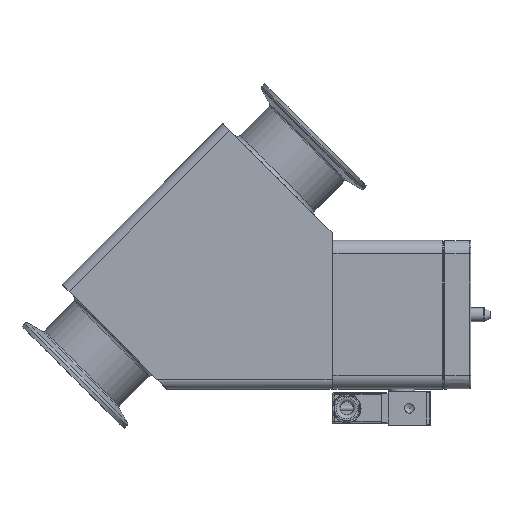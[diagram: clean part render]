
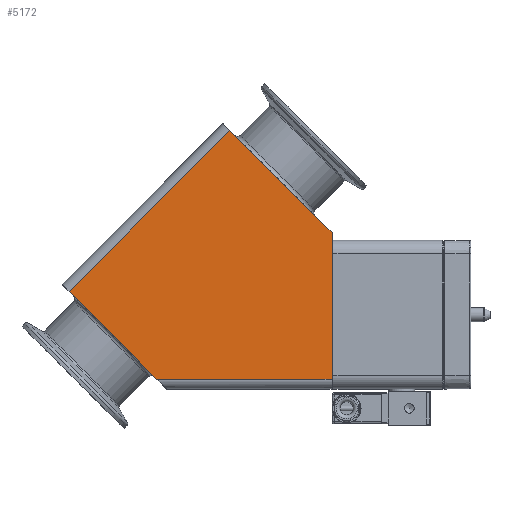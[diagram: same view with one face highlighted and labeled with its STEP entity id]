
A CAD part, top view. The second image highlights one B-rep face of the part: STEP entity #5172.
In plain terms, the highlighted planar face has unit normal (0, 0, 1).
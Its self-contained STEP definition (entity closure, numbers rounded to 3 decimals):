
#5172=ADVANCED_FACE('',(#6155),#5658,.T.);
#5658=PLANE('',#16197);
#6155=FACE_OUTER_BOUND('',#7066,.T.);
#7066=EDGE_LOOP('',(#10246,#10247,#10248,#10249,#10250));
#10246=ORIENTED_EDGE('',*,*,#13099,.T.);
#10247=ORIENTED_EDGE('',*,*,#13109,.T.);
#10248=ORIENTED_EDGE('',*,*,#13073,.T.);
#10249=ORIENTED_EDGE('',*,*,#13093,.T.);
#10250=ORIENTED_EDGE('',*,*,#13110,.T.);
#11469=VERTEX_POINT('',#24726);
#11470=VERTEX_POINT('',#24727);
#11488=VERTEX_POINT('',#24808);
#11493=VERTEX_POINT('',#24820);
#11494=VERTEX_POINT('',#24822);
#13073=EDGE_CURVE('',#11469,#11470,#14125,.T.);
#13093=EDGE_CURVE('',#11470,#11488,#14130,.T.);
#13099=EDGE_CURVE('',#11494,#11493,#14133,.T.);
#13109=EDGE_CURVE('',#11493,#11469,#14140,.T.);
#13110=EDGE_CURVE('',#11488,#11494,#14141,.T.);
#14125=LINE('',#24725,#15102);
#14130=LINE('',#24809,#15107);
#14133=LINE('',#24821,#15110);
#14140=LINE('',#24839,#15117);
#14141=LINE('',#24840,#15118);
#15102=VECTOR('',#19362,1.);
#15107=VECTOR('',#19401,1.);
#15110=VECTOR('',#19412,1.);
#15117=VECTOR('',#19431,1.);
#15118=VECTOR('',#19432,1.);
#16197=AXIS2_PLACEMENT_3D('',#24841,#19433,#19434);
#19362=DIRECTION('',(-0.707,-0.707,0.));
#19401=DIRECTION('',(0.,-1.,0.));
#19412=DIRECTION('',(0.,1.,0.));
#19431=DIRECTION('',(-0.707,0.707,0.));
#19432=DIRECTION('',(1.,0.,0.));
#19433=DIRECTION('',(0.,0.,1.));
#19434=DIRECTION('',(1.,0.,0.));
#24725=CARTESIAN_POINT('',(57.276,137.276,77.));
#24726=CARTESIAN_POINT('',(53.74,133.74,77.));
#24727=CARTESIAN_POINT('',(0.,80.,77.));
#24808=CARTESIAN_POINT('',(0.,5.,77.));
#24809=CARTESIAN_POINT('',(0.,80.,77.));
#24820=CARTESIAN_POINT('',(118.,69.48,77.));
#24821=CARTESIAN_POINT('',(118.,0.,77.));
#24822=CARTESIAN_POINT('',(118.,5.,77.));
#24839=CARTESIAN_POINT('',(53.74,133.74,77.));
#24840=CARTESIAN_POINT('',(118.,5.,77.));
#24841=CARTESIAN_POINT('',(118.,0.,77.));
